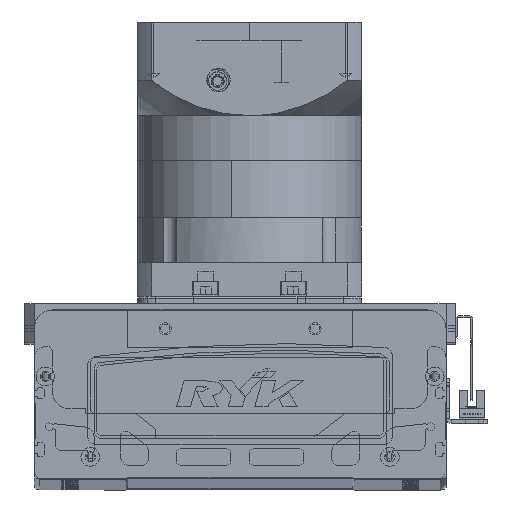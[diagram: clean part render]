
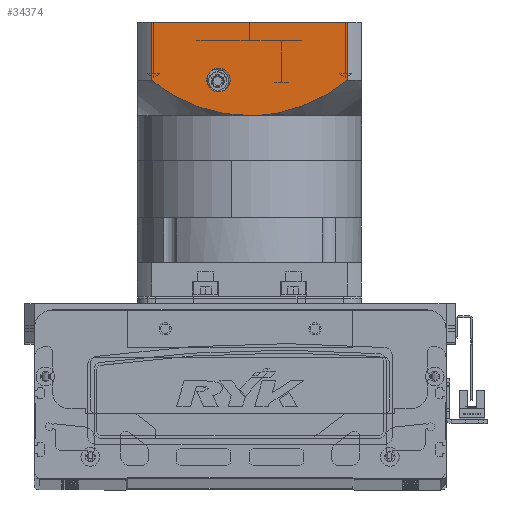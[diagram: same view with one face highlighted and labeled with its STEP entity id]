
A CAD part, top view. The second image highlights one B-rep face of the part: STEP entity #34374.
In plain terms, the highlighted planar face has unit normal (0, 0, 1) as drawn and (0, -1, 0) by its records, which use the part's own axes.
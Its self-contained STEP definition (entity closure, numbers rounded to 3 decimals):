
#174 = ORIENTED_EDGE ( 'NONE', *, *, #33300, .T. ) ;
#1087 = VERTEX_POINT ( 'NONE', #68415 ) ;
#1507 = CARTESIAN_POINT ( 'NONE',  ( 48.457, -60., -116.522 ) ) ;
#1513 = B_SPLINE_CURVE_WITH_KNOTS ( 'NONE', 3,
 ( #2502, #14846, #32468, #3289, #44303, #9201, #37315, #50172, #25813, #56049, #8190, #68388, #22189, #56555, #4075, #44549, #45035, #9979 ),
 .UNSPECIFIED., .F., .F.,
 ( 4, 2, 2, 2, 2, 2, 2, 2, 4 ),
 ( 0., 0.014, 0.018, 0.021, 0.028, 0.042, 0.046, 0.05, 0.057 ),
 .UNSPECIFIED. ) ;
#2502 = CARTESIAN_POINT ( 'NONE',  ( -52.156, -60., -119.5 ) ) ;
#3289 = CARTESIAN_POINT ( 'NONE',  ( -39.546, -60., -110.776 ) ) ;
#4075 = CARTESIAN_POINT ( 'NONE',  ( -8.294, -60., -100.916 ) ) ;
#5279 = ORIENTED_EDGE ( 'NONE', *, *, #6563, .T. ) ;
#5851 = CARTESIAN_POINT ( 'NONE',  ( 52.156, -60., -150.5 ) ) ;
#6563 = EDGE_CURVE ( 'NONE', #68996, #16038, #50459, .T. ) ;
#6968 = CARTESIAN_POINT ( 'NONE',  ( 9.454, -60., -100.914 ) ) ;
#7458 = CARTESIAN_POINT ( 'NONE',  ( 45.542, -60., -114.478 ) ) ;
#8190 = CARTESIAN_POINT ( 'NONE',  ( -18.792, -60., -102.562 ) ) ;
#9201 = CARTESIAN_POINT ( 'NONE',  ( -36.409, -60., -109.113 ) ) ;
#9353 = ORIENTED_EDGE ( 'NONE', *, *, #69486, .T. ) ;
#9979 = CARTESIAN_POINT ( 'NONE',  ( 0., -60., -100.5 ) ) ;
#11778 = DIRECTION ( 'NONE',  ( 0., 0., 1. ) ) ;
#11800 = CARTESIAN_POINT ( 'NONE',  ( 16.5, -60., -119.5 ) ) ;
#12592 = CARTESIAN_POINT ( 'NONE',  ( 0., -60., -100.5 ) ) ;
#12841 = CARTESIAN_POINT ( 'NONE',  ( 41.545, -60., -111.931 ) ) ;
#13416 = ORIENTED_EDGE ( 'NONE', *, *, #66248, .F. ) ;
#13451 = VERTEX_POINT ( 'NONE', #33575 ) ;
#14846 = CARTESIAN_POINT ( 'NONE',  ( -48.52, -60., -116.438 ) ) ;
#16038 = VERTEX_POINT ( 'NONE', #5851 ) ;
#16866 = CARTESIAN_POINT ( 'NONE',  ( -52.156, -60., -150.5 ) ) ;
#17497 = DIRECTION ( 'NONE',  ( 1., 0., 0. ) ) ;
#18435 = CARTESIAN_POINT ( 'NONE',  ( 23.329, -60., -103.886 ) ) ;
#19256 = VECTOR ( 'NONE', #21039, 1000. ) ;
#21039 = DIRECTION ( 'NONE',  ( 1., 0., 0. ) ) ;
#21800 = AXIS2_PLACEMENT_3D ( 'NONE', #47213, #76017, #17497 ) ;
#22189 = CARTESIAN_POINT ( 'NONE',  ( -11.825, -60., -101.356 ) ) ;
#22746 = CARTESIAN_POINT ( 'NONE',  ( 52.156, -60., -150.5 ) ) ;
#23074 = ORIENTED_EDGE ( 'NONE', *, *, #42410, .F. ) ;
#23111 = VERTEX_POINT ( 'NONE', #25254 ) ;
#23655 = CARTESIAN_POINT ( 'NONE',  ( 16.5, -60., -119.5 ) ) ;
#23692 = AXIS2_PLACEMENT_3D ( 'NONE', #11800, #64280, #39966 ) ;
#24171 = DIRECTION ( 'NONE',  ( 0., 0., -1. ) ) ;
#25254 = CARTESIAN_POINT ( 'NONE',  ( 16.5, -60., -113.25 ) ) ;
#25813 = CARTESIAN_POINT ( 'NONE',  ( -29.939, -60., -106.183 ) ) ;
#26755 = VERTEX_POINT ( 'NONE', #68308 ) ;
#30472 = CARTESIAN_POINT ( 'NONE',  ( 19.894, -60., -102.964 ) ) ;
#30539 = VECTOR ( 'NONE', #11778, 1000. ) ;
#31700 = CIRCLE ( 'NONE', #23692, 6.25 ) ;
#32468 = CARTESIAN_POINT ( 'NONE',  ( -44.656, -60., -113.73 ) ) ;
#32662 = EDGE_CURVE ( 'NONE', #1087, #37247, #1513, .T. ) ;
#33300 = EDGE_CURVE ( 'NONE', #13451, #23111, #31700, .T. ) ;
#33575 = CARTESIAN_POINT ( 'NONE',  ( 16.5, -60., -125.75 ) ) ;
#34229 = LINE ( 'NONE', #52489, #30539 ) ;
#34374 = ADVANCED_FACE ( 'NONE', ( #73806, #35158 ), #34906, .T. ) ;
#34906 = PLANE ( 'NONE',  #21800 ) ;
#35158 = FACE_BOUND ( 'NONE', #49455, .T. ) ;
#36605 = CARTESIAN_POINT ( 'NONE',  ( 16.426, -60., -102.169 ) ) ;
#37247 = VERTEX_POINT ( 'NONE', #41229 ) ;
#37315 = CARTESIAN_POINT ( 'NONE',  ( -35.342, -60., -108.587 ) ) ;
#38862 = VECTOR ( 'NONE', #52230, 1000. ) ;
#39853 = ORIENTED_EDGE ( 'NONE', *, *, #65721, .T. ) ;
#39966 = DIRECTION ( 'NONE',  ( 0., 0., -1. ) ) ;
#41229 = CARTESIAN_POINT ( 'NONE',  ( 0., -60., -100.5 ) ) ;
#42410 = EDGE_CURVE ( 'NONE', #37247, #26755, #69726, .T. ) ;
#42544 = CARTESIAN_POINT ( 'NONE',  ( 32.196, -60., -107.007 ) ) ;
#44303 = CARTESIAN_POINT ( 'NONE',  ( -38.51, -60., -110.207 ) ) ;
#44549 = CARTESIAN_POINT ( 'NONE',  ( -4.747, -60., -100.604 ) ) ;
#45035 = CARTESIAN_POINT ( 'NONE',  ( -2.376, -60., -100.5 ) ) ;
#47213 = CARTESIAN_POINT ( 'NONE',  ( -60., -60., -150.5 ) ) ;
#47405 = CARTESIAN_POINT ( 'NONE',  ( 25.577, -60., -104.596 ) ) ;
#47534 = CIRCLE ( 'NONE', #56184, 6.25 ) ;
#49455 = EDGE_LOOP ( 'NONE', ( #174, #9353 ) ) ;
#50172 = CARTESIAN_POINT ( 'NONE',  ( -32.118, -60., -107.084 ) ) ;
#50459 = LINE ( 'NONE', #61294, #19256 ) ;
#52230 = DIRECTION ( 'NONE',  ( 0., 0., 1. ) ) ;
#52489 = CARTESIAN_POINT ( 'NONE',  ( -52.156, -60., -97.5 ) ) ;
#53294 = CARTESIAN_POINT ( 'NONE',  ( 15.267, -60., -101.938 ) ) ;
#53538 = CARTESIAN_POINT ( 'NONE',  ( 4.753, -60., -100.5 ) ) ;
#54327 = CARTESIAN_POINT ( 'NONE',  ( 52.156, -60., -119.5 ) ) ;
#56049 = CARTESIAN_POINT ( 'NONE',  ( -23.319, -60., -103.777 ) ) ;
#56184 = AXIS2_PLACEMENT_3D ( 'NONE', #23655, #70650, #24171 ) ;
#56555 = CARTESIAN_POINT ( 'NONE',  ( -9.477, -60., -101.046 ) ) ;
#56788 = ORIENTED_EDGE ( 'NONE', *, *, #32662, .F. ) ;
#59202 = CARTESIAN_POINT ( 'NONE',  ( 44.553, -60., -113.817 ) ) ;
#59698 = CARTESIAN_POINT ( 'NONE',  ( 18.739, -60., -102.681 ) ) ;
#61294 = CARTESIAN_POINT ( 'NONE',  ( -60., -60., -150.5 ) ) ;
#64280 = DIRECTION ( 'NONE',  ( 0., 1., 0. ) ) ;
#65336 = CARTESIAN_POINT ( 'NONE',  ( 50.338, -60., -117.969 ) ) ;
#65596 = CARTESIAN_POINT ( 'NONE',  ( 42.555, -60., -112.543 ) ) ;
#65721 = EDGE_CURVE ( 'NONE', #16038, #26755, #73817, .T. ) ;
#66248 = EDGE_CURVE ( 'NONE', #68996, #1087, #34229, .T. ) ;
#68308 = CARTESIAN_POINT ( 'NONE',  ( 52.156, -60., -119.5 ) ) ;
#68388 = CARTESIAN_POINT ( 'NONE',  ( -12.993, -60., -101.537 ) ) ;
#68415 = CARTESIAN_POINT ( 'NONE',  ( -52.156, -60., -119.5 ) ) ;
#68996 = VERTEX_POINT ( 'NONE', #16866 ) ;
#69486 = EDGE_CURVE ( 'NONE', #23111, #13451, #47534, .T. ) ;
#69726 = B_SPLINE_CURVE_WITH_KNOTS ( 'NONE', 3,
 ( #12592, #53538, #6968, #53294, #36605, #59698, #30472, #18435, #47405, #42544, #70797, #12841, #65596, #59202, #7458, #1507, #65336, #54327 ),
 .UNSPECIFIED., .F., .F.,
 ( 4, 2, 2, 2, 2, 2, 2, 2, 4 ),
 ( 0., 0.014, 0.018, 0.021, 0.028, 0.042, 0.046, 0.05, 0.057 ),
 .UNSPECIFIED. ) ;
#70650 = DIRECTION ( 'NONE',  ( 0., 1., 0. ) ) ;
#70797 = CARTESIAN_POINT ( 'NONE',  ( 36.444, -60., -108.986 ) ) ;
#72422 = EDGE_LOOP ( 'NONE', ( #13416, #5279, #39853, #23074, #56788 ) ) ;
#73806 = FACE_OUTER_BOUND ( 'NONE', #72422, .T. ) ;
#73817 = LINE ( 'NONE', #22746, #38862 ) ;
#76017 = DIRECTION ( 'NONE',  ( 0., -1., 0. ) ) ;
